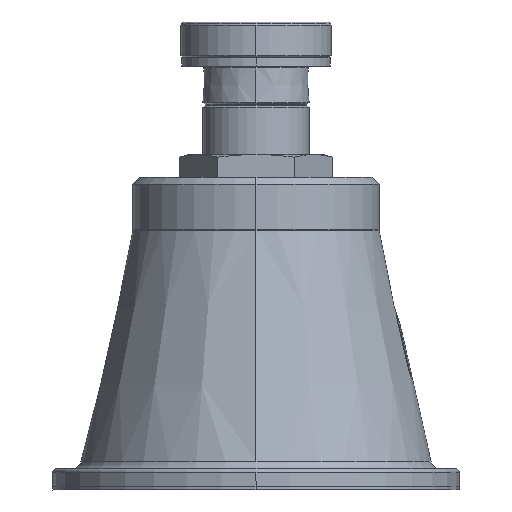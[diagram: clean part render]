
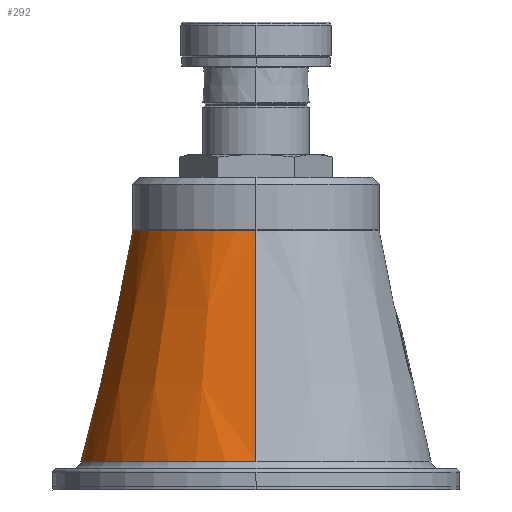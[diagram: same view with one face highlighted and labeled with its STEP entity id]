
A CAD part, left-side view. The second image highlights one B-rep face of the part: STEP entity #292.
In plain terms, the highlighted conical face has half-angle 12.633 degrees and reference radius 84.432 mm.
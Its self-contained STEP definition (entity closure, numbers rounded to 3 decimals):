
#292=ADVANCED_FACE('',(#627),#628,.T.);
#627=FACE_OUTER_BOUND('',#1038,.T.);
#628=CONICAL_SURFACE('',#1039,84.432,0.22);
#1038=EDGE_LOOP('',(#1718,#1719,#1720,#1721,#1722));
#1039=AXIS2_PLACEMENT_3D('',#1723,#1724,#1725);
#1718=ORIENTED_EDGE('',*,*,#2543,.T.);
#1719=ORIENTED_EDGE('',*,*,#2568,.F.);
#1720=ORIENTED_EDGE('',*,*,#2545,.T.);
#1721=ORIENTED_EDGE('',*,*,#2569,.T.);
#1722=ORIENTED_EDGE('',*,*,#2469,.T.);
#1723=CARTESIAN_POINT('',(355.647,404.518,79.457));
#1724=DIRECTION('',(0.,0.,-1.0));
#1725=DIRECTION('',(-1.0,0.,0.));
#2469=EDGE_CURVE('',#2937,#2945,#2947,.T.);
#2543=EDGE_CURVE('',#2945,#3078,#3079,.T.);
#2545=EDGE_CURVE('',#3082,#3080,#3083,.T.);
#2568=EDGE_CURVE('',#3082,#3078,#3121,.T.);
#2569=EDGE_CURVE('',#3080,#2937,#3122,.T.);
#2937=VERTEX_POINT('',#3564);
#2945=VERTEX_POINT('',#3572);
#2947=CIRCLE('',#3574,99.123);
#3078=VERTEX_POINT('',#4165);
#3079=LINE('',#4166,#4167);
#3080=VERTEX_POINT('',#4168);
#3082=VERTEX_POINT('',#4170);
#3083=LINE('',#4171,#4172);
#3121=CIRCLE('',#4219,69.742);
#3122=CIRCLE('',#4220,99.123);
#3564=CARTESIAN_POINT('',(355.647,503.641,13.915));
#3572=CARTESIAN_POINT('',(256.524,404.518,13.915));
#3574=AXIS2_PLACEMENT_3D('',#4897,#4898,#4899);
#4165=CARTESIAN_POINT('',(285.905,404.518,145.));
#4166=CARTESIAN_POINT('',(271.215,404.518,79.457));
#4167=VECTOR('',#4968,1.0);
#4168=CARTESIAN_POINT('',(454.769,404.518,13.915));
#4170=CARTESIAN_POINT('',(425.389,404.518,145.));
#4171=CARTESIAN_POINT('',(440.079,404.518,79.457));
#4172=VECTOR('',#4972,1.0);
#4219=AXIS2_PLACEMENT_3D('',#5015,#5016,#5017);
#4220=AXIS2_PLACEMENT_3D('',#5018,#5019,#5020);
#4897=CARTESIAN_POINT('',(355.647,404.518,13.915));
#4898=DIRECTION('',(0.,0.,1.0));
#4899=DIRECTION('',(-1.0,0.,0.));
#4968=DIRECTION('',(0.219,0.,0.976));
#4972=DIRECTION('',(0.219,0.,-0.976));
#5015=CARTESIAN_POINT('',(355.647,404.518,145.));
#5016=DIRECTION('',(0.,0.,1.0));
#5017=DIRECTION('',(-1.0,0.,0.));
#5018=CARTESIAN_POINT('',(355.647,404.518,13.915));
#5019=DIRECTION('',(0.,0.,1.0));
#5020=DIRECTION('',(-1.0,0.,0.));
